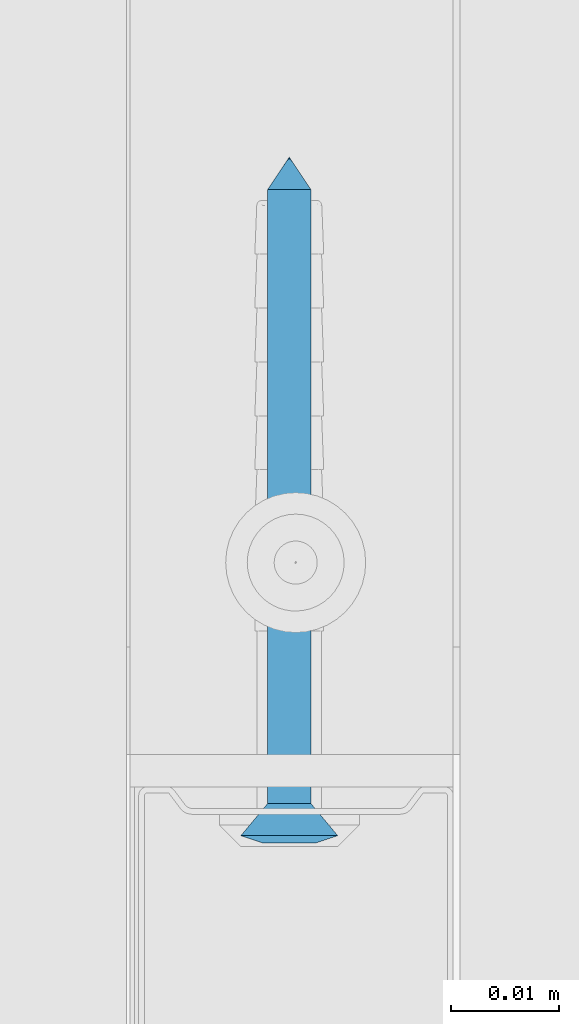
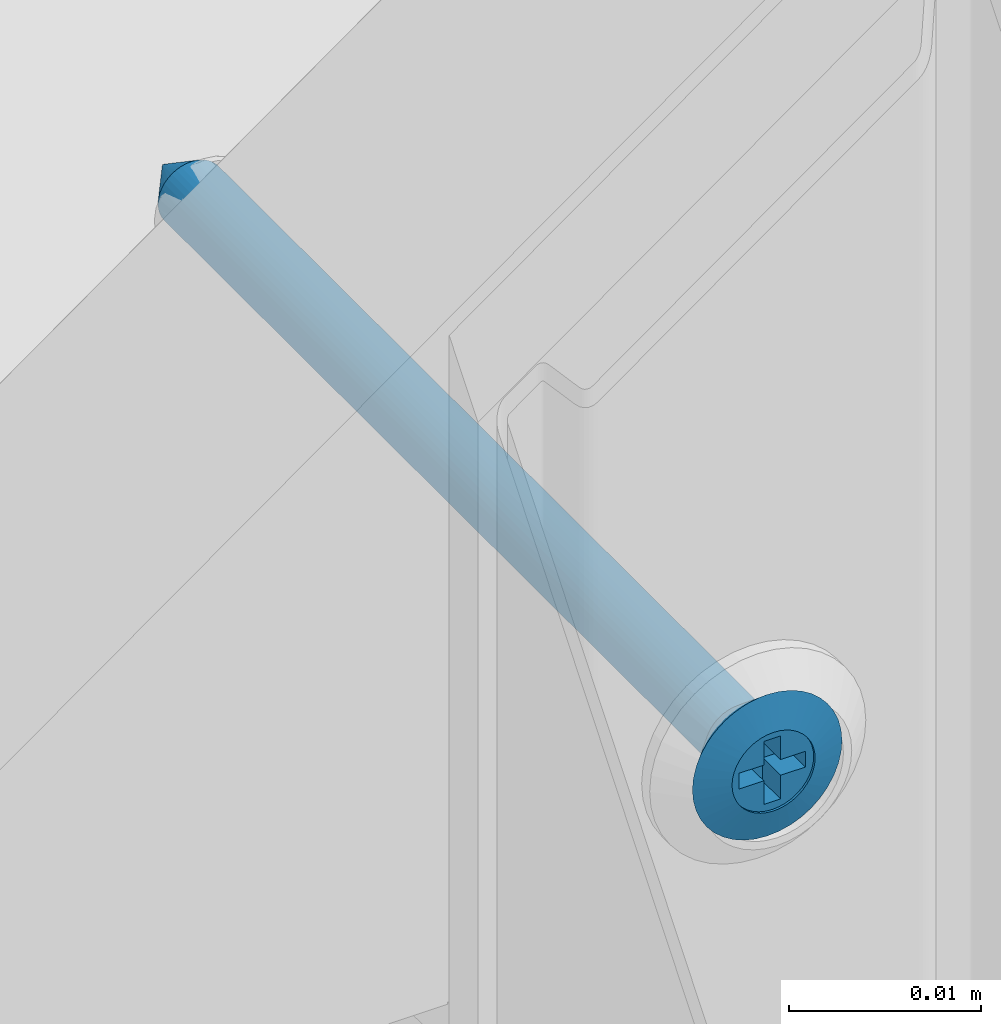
# One storey, part 50 of 67: 1 wall.
"""IFC2X3 building model written with IfcOpenShell, lengths in millimetres."""

from ifc_helpers import new_model, si_unit, frame, origin_with_axes, place, context, subcontext, project, spatial, faceted_brep, material, type_object, element, save


model = new_model("IFC2X3")

# Units and contexts
model_context = context("Model", 3, world=origin_with_axes())
body_context = subcontext(model_context, "Body", "Model", "MODEL_VIEW")
ifc_project = project(units=[si_unit("LENGTHUNIT", "METRE", prefix="MILLI"), si_unit("AREAUNIT", "SQUARE_METRE"), si_unit("VOLUMEUNIT", "CUBIC_METRE")], contexts=[model_context])

# Site, building, storey
site_placement = place(None, frame((2152.14102611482, 674.9749105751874, 57.61556563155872), z_axis=(0.0, 0.0, 1.0), x_axis=(-1.1102230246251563e-16, 1.0, 0.0)))
site = spatial("IfcSite", under=ifc_project, at=site_placement, Name="Default Site", CompositionType="ELEMENT")
building_placement = place(site_placement, origin_with_axes())
building = spatial("IfcBuilding", under=site, at=building_placement, Name="Default Building", CompositionType="ELEMENT")
storey_placement = place(building_placement, origin_with_axes())
storey = spatial("IfcBuildingStorey", under=building, at=storey_placement, Name="Default Building Storey", CompositionType="ELEMENT", Elevation=57.61556563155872)

# Wall
ifc_material = material(Name="Default")
wall_type = type_object("IfcWallType", Name="Kołek rozporowy min. fi 6#12", PredefinedType="NOTDEFINED")
wall_placement = place(storey_placement, frame((2716.025084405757, 523.23493587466, -1118.3302958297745), z_axis=(-1.0, 6.886500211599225e-13, 4.0245584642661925e-16), x_axis=(-6.886500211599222e-13, -1.0, 6.832464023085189e-13)))
element("IfcWall", 1, at=wall_placement, inside=storey, type_object=wall_type, material=ifc_material, Name="Kołek rozporowy min. fi 6", context=body_context, shape_type="Brep", body=[
    faceted_brep([(-1438.3141994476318, 3453.2833099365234, -0.46425670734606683), (-1435.8141422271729, 3453.2833099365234, -3.464256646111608), (-1435.7895851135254, 3452.970266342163, -3.464256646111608), (-1438.2587671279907, 3452.579259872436, -0.46425670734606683), (-1435.7162714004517, 3452.6650905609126, -3.464256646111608), (-1438.093900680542, 3451.892614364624, -0.46425670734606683), (-1435.5961084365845, 3452.3751735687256, -3.464256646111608), (-1437.8236532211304, 3451.240301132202, -0.46425670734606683), (-1435.4321956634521, 3452.107667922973, -3.464256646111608), (-1437.4547004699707, 3450.6382942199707, -0.46425670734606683), (-1435.22834777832, 3451.8690109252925, -3.464256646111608), (-1436.9961023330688, 3450.101137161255, -0.46425670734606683), (-1434.9896907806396, 3451.665163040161, -3.464256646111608), (-1436.4591836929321, 3449.642658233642, -0.46425670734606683), (-1434.7221851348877, 3451.501131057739, -3.464256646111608), (-1435.8570575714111, 3449.2735862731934, -0.46425670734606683), (-1434.4321489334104, 3451.381206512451, -3.464256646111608), (-1435.2047443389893, 3449.0034580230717, -0.46425670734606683), (-1434.1269731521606, 3451.307773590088, -3.464256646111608), (-1434.5180988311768, 3448.838710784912, -0.46425670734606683), (-1433.8141679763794, 3451.28321647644, -3.464256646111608), (-1433.8141679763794, 3448.7831592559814, -0.46425670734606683), (-1433.5012435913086, 3451.307773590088, -3.464256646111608), (-1433.110237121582, 3448.838710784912, -0.46425670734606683), (-1433.1960678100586, 3451.381206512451, -3.464256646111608), (-1432.4235916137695, 3449.0034580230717, -0.46425670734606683), (-1432.9061508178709, 3451.501131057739, -3.464256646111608), (-1431.771159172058, 3449.2735862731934, -0.46425670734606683), (-1432.6385259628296, 3451.665163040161, -3.464256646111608), (-1431.1691522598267, 3449.642658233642, -0.46425670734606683), (-1432.3999881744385, 3451.8690109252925, -3.464256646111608), (-1430.6321144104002, 3450.101137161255, -0.46425670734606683), (-1432.1961402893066, 3452.107667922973, -3.464256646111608), (-1430.1735162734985, 3450.6382942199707, -0.46425670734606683), (-1432.0321083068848, 3452.3751735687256, -3.464256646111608), (-1429.8045635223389, 3451.240301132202, -0.46425670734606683), (-1431.9120645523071, 3452.6650905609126, -3.464256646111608), (-1429.5344352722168, 3451.892614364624, -0.46425670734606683), (-1431.8387508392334, 3453.5961151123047, -3.464256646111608), (-1429.369568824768, 3453.9871215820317, -0.46425670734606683), (-1429.314136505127, 3453.2833099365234, -0.46425670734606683), (-1431.814193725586, 3453.2833099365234, -3.464256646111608), (-1429.369568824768, 3452.579259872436, -0.46425670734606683), (-1431.8387508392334, 3452.970266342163, -3.464256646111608), (-1431.9120645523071, 3453.9012908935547, -3.464256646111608), (-1429.5344352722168, 3454.6737670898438, -0.46425670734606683), (-1432.0321083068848, 3454.191207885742, -3.464256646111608), (-1429.8045635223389, 3455.3260803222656, -0.46425670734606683), (-1432.1961402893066, 3454.458713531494, -3.464256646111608), (-1430.1735162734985, 3455.9283256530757, -0.46425670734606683), (-1432.3999881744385, 3454.6973705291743, -3.464256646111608), (-1430.6321144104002, 3456.465244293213, -0.46425670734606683), (-1432.6385259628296, 3454.9012184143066, -3.464256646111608), (-1431.1691522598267, 3456.923723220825, -0.46425670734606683), (-1432.9061508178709, 3455.065250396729, -3.464256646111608), (-1431.771159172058, 3457.2927951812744, -0.46425670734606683), (-1433.1960678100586, 3455.1854133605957, -3.464256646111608), (-1432.4235916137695, 3457.562923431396, -0.46425670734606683), (-1433.5012435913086, 3455.25860786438, -3.464256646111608), (-1433.110237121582, 3457.7279090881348, -0.46425670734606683), (-1433.8141679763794, 3455.283164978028, -3.464256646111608), (-1433.8141679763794, 3457.7832221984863, -0.46425670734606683), (-1434.3430995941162, 3457.7519893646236, -0.46425670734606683), (-1434.1269731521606, 3455.25860786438, -3.464256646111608), (-1434.4321489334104, 3455.1854133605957, -3.464256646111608), (-1434.8646402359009, 3457.6590061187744, -0.46425670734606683), (-1435.3716373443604, 3457.504987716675, -0.46425670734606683), (-1434.7221851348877, 3455.065250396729, -3.464256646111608), (-1435.8570575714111, 3457.2927951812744, -0.46425670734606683), (-1434.9896907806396, 3454.9012184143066, -3.464256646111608), (-1435.22834777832, 3454.6973705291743, -3.464256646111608), (-1436.3142251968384, 3457.024812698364, -0.46425670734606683), (-1436.7367029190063, 3456.705093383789, -0.46425670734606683), (-1437.118649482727, 3456.337928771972, -0.46425670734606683), (-1437.4547004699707, 3455.9283256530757, -0.46425670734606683), (-1435.4321956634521, 3454.458713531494, -3.464256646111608), (-1435.5961084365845, 3454.191207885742, -3.464256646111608), (-1437.8236532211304, 3455.3260803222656, -0.46425670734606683), (-1435.7162714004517, 3453.9012908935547, -3.464256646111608), (-1438.093900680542, 3454.6737670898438, -0.46425670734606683), (-1435.7895851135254, 3453.5961151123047, -3.464256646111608), (-1438.2587671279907, 3453.9871215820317, -0.46425670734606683), (-1434.2052936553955, 3455.752372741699, 0.20073754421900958), (-1433.8141679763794, 3455.7831287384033, 0.20073754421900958), (-1434.5866441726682, 3455.6608200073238, 0.20073754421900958), (-1434.9491596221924, 3455.510854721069, 0.20073754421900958), (-1435.2836608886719, 3455.305814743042, 0.20073754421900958), (-1435.581922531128, 3455.0509452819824, 0.20073754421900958), (-1435.836672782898, 3454.7526836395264, 0.20073754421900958), (-1436.0417127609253, 3454.418182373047, 0.20073754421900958), (-1436.1917972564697, 3454.0557861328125, 0.20073754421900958), (-1436.2833499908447, 3453.6743164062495, 0.20073754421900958), (-1436.3141059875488, 3453.2833099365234, 0.20073754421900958), (-1436.2833499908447, 3452.8920650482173, 0.20073754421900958), (-1436.1917972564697, 3452.5105953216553, 0.20073754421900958), (-1436.0417127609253, 3452.148199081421, 0.20073754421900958), (-1435.836672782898, 3451.8136978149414, 0.20073754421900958), (-1435.581922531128, 3451.5154361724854, 0.20073754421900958), (-1435.2836608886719, 3451.260566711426, 0.20073754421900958), (-1434.9491596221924, 3451.0557651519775, 0.20073754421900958), (-1434.5866441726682, 3450.905561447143, 0.20073754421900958), (-1433.4230422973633, 3450.8140087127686, 0.20073754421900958), (-1433.8141679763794, 3450.7832527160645, 0.20073754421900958), (-1434.2052936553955, 3450.8140087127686, 0.20073754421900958), (-1433.0415725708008, 3450.905561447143, 0.20073754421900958), (-1432.6791763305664, 3451.0557651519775, 0.20073754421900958), (-1432.344675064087, 3451.260566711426, 0.20073754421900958), (-1432.0464134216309, 3451.5154361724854, 0.20073754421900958), (-1431.7916631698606, 3451.8136978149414, 0.20073754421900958), (-1431.5866231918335, 3452.148199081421, 0.20073754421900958), (-1431.436538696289, 3452.5105953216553, 0.20073754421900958), (-1431.344985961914, 3452.8920650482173, 0.20073754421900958), (-1431.3141107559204, 3453.2833099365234, 0.20073754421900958), (-1431.344985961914, 3453.6743164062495, 0.20073754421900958), (-1431.436538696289, 3454.0557861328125, 0.20073754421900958), (-1431.5866231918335, 3454.418182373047, 0.20073754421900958), (-1431.7916631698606, 3454.7526836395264, 0.20073754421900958), (-1432.0464134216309, 3455.0509452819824, 0.20073754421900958), (-1432.344675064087, 3455.305814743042, 0.20073754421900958), (-1432.6791763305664, 3455.510854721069, 0.20073754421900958), (-1433.0415725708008, 3455.6608200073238, 0.20073754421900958), (-1433.4230422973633, 3455.752372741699, 0.20073754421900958), (-1433.8141679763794, 3453.2833099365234, -63.46425414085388), (-1435.7895851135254, 3452.970266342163, -60.464255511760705), (-1435.8141422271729, 3453.2833099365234, -60.464255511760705), (-1435.7162714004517, 3452.6650905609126, -60.464255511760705), (-1435.5961084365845, 3452.3751735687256, -60.464255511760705), (-1435.4321956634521, 3452.107667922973, -60.464255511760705), (-1435.22834777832, 3451.8690109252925, -60.464255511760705), (-1434.9896907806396, 3451.665163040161, -60.464255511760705), (-1434.7221851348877, 3451.501131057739, -60.464255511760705), (-1434.4321489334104, 3451.381206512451, -60.464255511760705), (-1434.1269731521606, 3451.307773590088, -60.464255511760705), (-1433.8141679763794, 3451.28321647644, -60.464255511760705), (-1433.5012435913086, 3451.307773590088, -60.464255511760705), (-1433.1960678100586, 3451.381206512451, -60.464255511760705), (-1432.9061508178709, 3451.501131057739, -60.464255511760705), (-1432.6385259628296, 3451.665163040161, -60.464255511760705), (-1432.3999881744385, 3451.8690109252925, -60.464255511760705), (-1432.1961402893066, 3452.107667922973, -60.464255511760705), (-1432.0321083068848, 3452.3751735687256, -60.464255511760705), (-1431.9120645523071, 3452.6650905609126, -60.464255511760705), (-1431.8387508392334, 3452.970266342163, -60.464255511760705), (-1431.814193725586, 3453.2833099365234, -60.464255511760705), (-1431.8387508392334, 3453.5961151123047, -60.464255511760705), (-1431.9120645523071, 3453.9012908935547, -60.464255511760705), (-1432.0321083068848, 3454.191207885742, -60.464255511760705), (-1432.1961402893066, 3454.458713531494, -60.464255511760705), (-1432.3999881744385, 3454.6973705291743, -60.464255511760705), (-1432.6385259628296, 3454.9012184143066, -60.464255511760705), (-1432.9061508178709, 3455.065250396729, -60.464255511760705), (-1433.1960678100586, 3455.1854133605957, -60.464255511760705), (-1433.5012435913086, 3455.25860786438, -60.464255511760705), (-1433.8141679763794, 3455.283164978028, -60.464255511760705), (-1434.1269731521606, 3455.25860786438, -60.464255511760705), (-1434.4321489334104, 3455.1854133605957, -60.464255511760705), (-1434.7221851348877, 3455.065250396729, -60.464255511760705), (-1434.9896907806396, 3454.9012184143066, -60.464255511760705), (-1435.22834777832, 3454.6973705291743, -60.464255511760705), (-1435.4321956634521, 3454.458713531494, -60.464255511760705), (-1435.5961084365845, 3454.191207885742, -60.464255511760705), (-1435.7162714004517, 3453.9012908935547, -60.464255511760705), (-1435.7895851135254, 3453.5961151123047, -60.464255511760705), (-1436.0417127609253, 3454.418182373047, 0.049999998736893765), (-1436.1917972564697, 3454.0557861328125, 0.049999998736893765), (-1436.2833499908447, 3453.6743164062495, 0.049999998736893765), (-1436.3141059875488, 3453.2833099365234, 0.049999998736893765), (-1436.2833499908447, 3452.8920650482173, 0.049999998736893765), (-1436.1917972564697, 3452.5105953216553, 0.049999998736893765), (-1436.0417127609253, 3452.148199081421, 0.049999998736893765), (-1435.836672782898, 3451.8136978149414, 0.049999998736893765), (-1435.581922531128, 3451.5154361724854, 0.049999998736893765), (-1435.2836608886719, 3451.260566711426, 0.049999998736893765), (-1434.9491596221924, 3451.0557651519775, 0.049999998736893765), (-1434.5866441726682, 3450.905561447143, 0.049999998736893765), (-1434.2052936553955, 3450.8140087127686, 0.049999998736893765), (-1433.8141679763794, 3450.7832527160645, 0.049999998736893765), (-1433.4230422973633, 3450.8140087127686, 0.049999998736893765), (-1433.0415725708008, 3450.905561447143, 0.049999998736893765), (-1432.6791763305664, 3451.0557651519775, 0.049999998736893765), (-1432.344675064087, 3451.260566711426, 0.049999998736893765), (-1432.0464134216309, 3451.5154361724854, 0.049999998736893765), (-1431.7916631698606, 3451.8136978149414, 0.049999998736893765), (-1431.5866231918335, 3452.148199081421, 0.049999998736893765), (-1431.436538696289, 3452.5105953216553, 0.049999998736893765), (-1431.344985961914, 3452.8920650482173, 0.049999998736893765), (-1431.3141107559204, 3453.2833099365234, 0.049999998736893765), (-1431.344985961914, 3453.6743164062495, 0.049999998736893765), (-1431.436538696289, 3454.0557861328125, 0.049999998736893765), (-1431.5866231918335, 3454.418182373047, 0.049999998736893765), (-1431.7916631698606, 3454.7526836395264, 0.049999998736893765), (-1432.0464134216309, 3455.0509452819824, 0.049999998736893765), (-1432.344675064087, 3455.305814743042, 0.049999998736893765), (-1432.6791763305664, 3455.510854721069, 0.049999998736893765), (-1433.0415725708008, 3455.6608200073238, 0.049999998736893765), (-1433.4230422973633, 3455.752372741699, 0.049999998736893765), (-1433.8141679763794, 3455.7831287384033, 0.049999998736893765), (-1434.2052936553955, 3455.752372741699, 0.049999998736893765), (-1434.5866441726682, 3455.6608200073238, 0.049999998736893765), (-1434.9491596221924, 3455.510854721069, 0.049999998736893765), (-1435.2836608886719, 3455.305814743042, 0.049999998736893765), (-1435.581922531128, 3455.0509452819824, 0.049999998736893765), (-1435.836672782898, 3454.7526836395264, 0.049999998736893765), (-1434.3141317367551, 3452.7831077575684, 0.049999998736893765), (-1435.8141422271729, 3452.7831077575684, 0.049999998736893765), (-1435.8141422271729, 3453.7832736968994, 0.049999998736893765), (-1434.3141317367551, 3453.7832736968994, 0.049999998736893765), (-1434.3141317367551, 3455.283164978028, 0.049999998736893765), (-1433.3142042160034, 3455.283164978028, 0.049999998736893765), (-1433.3142042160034, 3453.7832736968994, 0.049999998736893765), (-1431.814193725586, 3453.7832736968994, 0.049999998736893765), (-1431.814193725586, 3452.7831077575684, 0.049999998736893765), (-1433.3142042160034, 3452.7831077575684, 0.049999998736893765), (-1433.3142042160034, 3451.28321647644, 0.049999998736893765), (-1434.3141317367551, 3451.28321647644, 0.049999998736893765), (-1434.3141317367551, 3452.7831077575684, -1.799262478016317), (-1434.3141317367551, 3451.28321647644, -1.799262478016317), (-1433.3142042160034, 3451.28321647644, -1.799262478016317), (-1433.3142042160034, 3452.7831077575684, -1.799262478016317), (-1431.814193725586, 3452.7831077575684, -1.799262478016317), (-1431.814193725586, 3453.7832736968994, -1.799262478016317), (-1433.3142042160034, 3453.7832736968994, -1.799262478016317), (-1433.3142042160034, 3455.283164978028, -1.799262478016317), (-1434.3141317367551, 3455.283164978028, -1.799262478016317), (-1434.3141317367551, 3453.7832736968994, -1.799262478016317), (-1435.8141422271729, 3453.7832736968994, -1.799262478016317), (-1435.8141422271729, 3452.7831077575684, -1.799262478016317)], [[[0, 1, 2, 3]], [[4, 5, 3, 2]], [[6, 7, 5, 4]], [[7, 6, 8, 9]], [[10, 11, 9, 8]], [[11, 10, 12, 13]], [[14, 15, 13, 12]], [[16, 17, 15, 14]], [[17, 16, 18, 19]], [[20, 21, 19, 18]], [[21, 20, 22, 23]], [[24, 25, 23, 22]], [[26, 27, 25, 24]], [[27, 26, 28, 29]], [[30, 31, 29, 28]], [[31, 30, 32, 33]], [[34, 35, 33, 32]], [[36, 37, 35, 34]], [[38, 39, 40, 41]], [[41, 40, 42, 43]], [[37, 36, 43, 42]], [[44, 45, 39, 38]], [[46, 47, 45, 44]], [[47, 46, 48, 49]], [[50, 51, 49, 48]], [[51, 50, 52, 53]], [[54, 55, 53, 52]], [[56, 57, 55, 54]], [[57, 56, 58, 59]], [[60, 61, 59, 58]], [[62, 61, 63]], [[61, 60, 63]], [[63, 64, 62]], [[64, 65, 62]], [[66, 65, 64]], [[64, 67, 66]], [[67, 68, 66]], [[69, 70, 71]], [[70, 72, 71]], [[71, 68, 69]], [[68, 67, 69]], [[70, 73, 72]], [[74, 73, 75]], [[73, 70, 75]], [[76, 77, 74, 75]], [[78, 79, 77, 76]], [[79, 78, 80, 81]], [[1, 0, 81, 80]], [[82, 83, 62]], [[83, 61, 62]], [[62, 65, 82]], [[65, 84, 82]], [[66, 68, 84]], [[68, 85, 84]], [[84, 65, 66]], [[86, 85, 71]], [[85, 68, 71]], [[72, 73, 87]], [[87, 86, 72]], [[86, 71, 72]], [[88, 87, 74]], [[87, 73, 74]], [[77, 89, 88, 74]], [[79, 90, 89, 77]], [[90, 79, 81, 91]], [[0, 92, 91, 81]], [[92, 0, 3, 93]], [[5, 94, 93, 3]], [[7, 95, 94, 5]], [[95, 7, 9, 96]], [[11, 97, 96, 9]], [[97, 11, 13, 98]], [[15, 99, 98, 13]], [[17, 100, 99, 15]], [[23, 101, 102, 21]], [[21, 102, 103, 19]], [[100, 17, 19, 103]], [[25, 104, 101, 23]], [[27, 105, 104, 25]], [[105, 27, 29, 106]], [[31, 107, 106, 29]], [[107, 31, 33, 108]], [[35, 109, 108, 33]], [[37, 110, 109, 35]], [[110, 37, 42, 111]], [[40, 112, 111, 42]], [[112, 40, 39, 113]], [[45, 114, 113, 39]], [[47, 115, 114, 45]], [[115, 47, 49, 116]], [[51, 117, 116, 49]], [[117, 51, 53, 118]], [[55, 119, 118, 53]], [[57, 120, 119, 55]], [[120, 57, 59, 121]], [[61, 83, 121, 59]], [[122, 123, 124]], [[122, 125, 123]], [[122, 126, 125]], [[127, 126, 122]], [[122, 128, 127]], [[129, 128, 122]], [[122, 130, 129]], [[122, 131, 130]], [[132, 131, 122]], [[122, 133, 132]], [[134, 133, 122]], [[122, 135, 134]], [[122, 136, 135]], [[137, 136, 122]], [[122, 138, 137]], [[139, 138, 122]], [[122, 140, 139]], [[122, 141, 140]], [[142, 141, 122]], [[122, 143, 142]], [[144, 143, 122]], [[122, 145, 144]], [[122, 146, 145]], [[147, 146, 122]], [[122, 148, 147]], [[149, 148, 122]], [[122, 150, 149]], [[122, 151, 150]], [[152, 151, 122]], [[122, 153, 152]], [[154, 153, 122]], [[122, 155, 154]], [[122, 156, 155]], [[157, 156, 122]], [[122, 158, 157]], [[159, 158, 122]], [[122, 160, 159]], [[122, 161, 160]], [[162, 161, 122]], [[124, 162, 122]], [[1, 124, 123, 2]], [[125, 4, 2, 123]], [[126, 6, 4, 125]], [[6, 126, 127, 8]], [[128, 10, 8, 127]], [[10, 128, 129, 12]], [[130, 14, 12, 129]], [[131, 16, 14, 130]], [[16, 131, 132, 18]], [[133, 20, 18, 132]], [[20, 133, 134, 22]], [[135, 24, 22, 134]], [[136, 26, 24, 135]], [[26, 136, 137, 28]], [[138, 30, 28, 137]], [[30, 138, 139, 32]], [[140, 34, 32, 139]], [[141, 36, 34, 140]], [[144, 38, 41, 143]], [[143, 41, 43, 142]], [[36, 141, 142, 43]], [[145, 44, 38, 144]], [[146, 46, 44, 145]], [[46, 146, 147, 48]], [[148, 50, 48, 147]], [[50, 148, 149, 52]], [[150, 54, 52, 149]], [[151, 56, 54, 150]], [[56, 151, 152, 58]], [[153, 60, 58, 152]], [[60, 153, 154, 63]], [[155, 64, 63, 154]], [[156, 67, 64, 155]], [[67, 156, 157, 69]], [[158, 70, 69, 157]], [[70, 158, 159, 75]], [[160, 76, 75, 159]], [[161, 78, 76, 160]], [[78, 161, 162, 80]], [[124, 1, 80, 162]], [[163, 164, 165, 166, 167, 168, 169, 170, 171, 172, 173, 174, 175, 176, 177, 178, 179, 180, 181, 182, 183, 184, 185, 186, 187, 188, 189, 190, 191, 192, 193, 194, 195, 196, 197, 198, 199, 200, 201, 202], [203, 204, 205, 206, 207, 208, 209, 210, 211, 212, 213, 214]], [[187, 186, 112, 113]], [[113, 114, 188, 187]], [[114, 115, 189, 188]], [[190, 189, 115, 116]], [[116, 117, 191, 190]], [[192, 191, 117, 118]], [[118, 119, 193, 192]], [[119, 120, 194, 193]], [[195, 194, 120, 121]], [[121, 83, 196, 195]], [[197, 196, 83, 82]], [[82, 84, 198, 197]], [[84, 85, 199, 198]], [[200, 199, 85, 86]], [[86, 87, 201, 200]], [[202, 201, 87, 88]], [[88, 89, 163, 202]], [[89, 90, 164, 163]], [[92, 93, 167, 166]], [[91, 92, 166, 165]], [[165, 164, 90, 91]], [[93, 94, 168, 167]], [[94, 95, 169, 168]], [[170, 169, 95, 96]], [[96, 97, 171, 170]], [[172, 171, 97, 98]], [[98, 99, 173, 172]], [[99, 100, 174, 173]], [[175, 174, 100, 103]], [[103, 102, 176, 175]], [[177, 176, 102, 101]], [[101, 104, 178, 177]], [[104, 105, 179, 178]], [[180, 179, 105, 106]], [[106, 107, 181, 180]], [[182, 181, 107, 108]], [[108, 109, 183, 182]], [[109, 110, 184, 183]], [[185, 184, 110, 111]], [[111, 112, 186, 185]], [[215, 216, 217, 218, 219, 220, 221, 222, 223, 224, 225, 226]], [[216, 214, 213, 217]], [[215, 203, 214, 216]], [[226, 204, 203, 215]], [[225, 205, 204, 226]], [[224, 206, 205, 225]], [[223, 207, 206, 224]], [[222, 208, 207, 223]], [[221, 209, 208, 222]], [[220, 210, 209, 221]], [[219, 211, 210, 220]], [[218, 212, 211, 219]], [[217, 213, 212, 218]]]),
])

save(model, "model.ifc")
